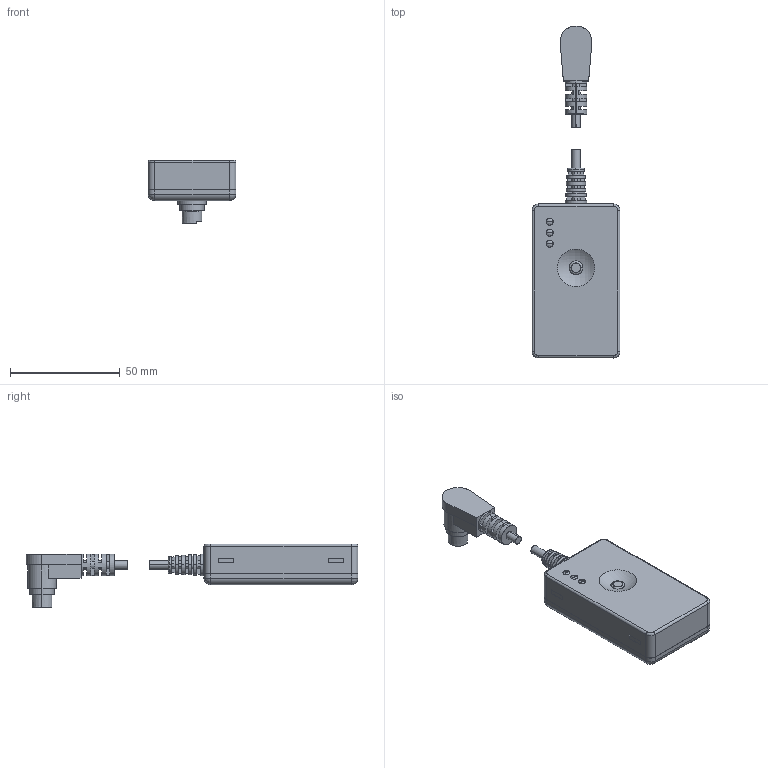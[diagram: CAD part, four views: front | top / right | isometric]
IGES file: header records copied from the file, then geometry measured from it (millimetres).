
Global section: organization: PanasonicElectricWorks; date: 080828.145542; units: millimetre
Bounding box: 40 x 150.9 x 29.05 mm (x, y, z)
Surface area: 18633.3 mm2 (no closed solid volume)
Topology: 0 solids, 0 shells, 315 faces, 3226 edges, 3215 vertices
Faces by surface type: bspline 221, revolution 94
